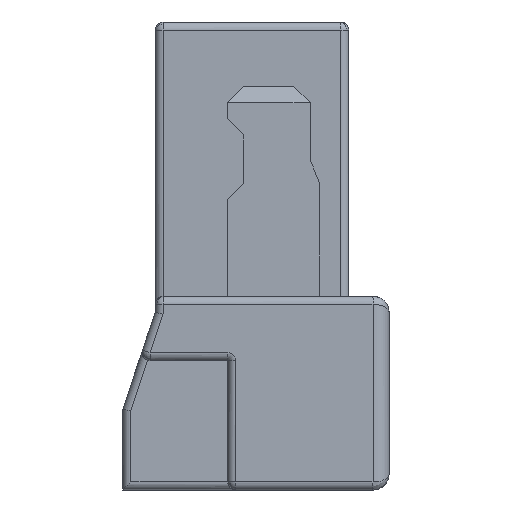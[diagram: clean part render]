
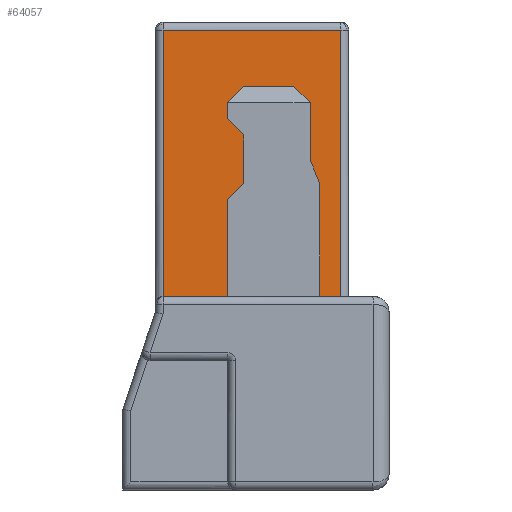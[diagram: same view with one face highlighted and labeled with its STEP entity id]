
A CAD part, left-side view. The second image highlights one B-rep face of the part: STEP entity #64057.
In plain terms, the highlighted planar face has unit normal (-1, 0, 0).
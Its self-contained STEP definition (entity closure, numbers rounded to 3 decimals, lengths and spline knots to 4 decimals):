
#10517=CARTESIAN_POINT('',(-16.09,1.4,1.2));
#10534=DIRECTION('',(0.,0.,1.));
#10535=VECTOR('',#10534,1.65);
#10536=CARTESIAN_POINT('',(-16.09,1.4,1.2));
#10537=LINE('',#10536,#10535);
#10571=DIRECTION('',(0.,-1.,0.));
#10572=VECTOR('',#10571,1.1);
#10573=CARTESIAN_POINT('',(-16.09,1.4,2.85));
#10574=LINE('',#10573,#10572);
#10579=DIRECTION('',(0.,0.,-1.));
#10580=VECTOR('',#10579,0.354);
#10581=CARTESIAN_POINT('',(-16.09,0.49,2.4));
#10582=LINE('',#10581,#10580);
#10583=DIRECTION('',(0.,-0.707,-0.707));
#10584=VECTOR('',#10583,0.1414);
#10585=CARTESIAN_POINT('',(-16.09,0.59,2.5));
#10586=LINE('',#10585,#10584);
#10587=DIRECTION('',(0.,-0.707,0.707));
#10588=VECTOR('',#10587,0.1414);
#10589=CARTESIAN_POINT('',(-16.09,1.,2.4));
#10590=LINE('',#10589,#10588);
#10591=DIRECTION('',(0.,0.707,0.707));
#10592=VECTOR('',#10591,0.1414);
#10593=CARTESIAN_POINT('',(-16.09,0.9,2.2));
#10594=LINE('',#10593,#10592);
#10595=DIRECTION('',(0.,-0.707,0.707));
#10596=VECTOR('',#10595,0.1414);
#10597=CARTESIAN_POINT('',(-16.09,1.,1.8));
#10598=LINE('',#10597,#10596);
#10599=DIRECTION('',(0.,-1.,0.));
#10600=VECTOR('',#10599,0.4);
#10601=CARTESIAN_POINT('',(-16.09,1.4,1.2));
#10602=LINE('',#10601,#10600);
#10603=DIRECTION('',(0.,-1.,0.));
#10604=VECTOR('',#10603,0.13);
#10605=CARTESIAN_POINT('',(-16.09,0.43,1.2));
#10606=LINE('',#10605,#10604);
#10607=DIRECTION('',(0.,-0.38,-0.925));
#10608=VECTOR('',#10607,0.1578);
#10609=CARTESIAN_POINT('',(-16.09,0.49,2.046));
#10610=LINE('',#10609,#10608);
#10627=DIRECTION('',(0.,0.,1.));
#10628=VECTOR('',#10627,0.7);
#10629=CARTESIAN_POINT('',(-16.09,0.43,1.2));
#10630=LINE('',#10629,#10628);
#10667=DIRECTION('',(0.,0.,-1.));
#10668=VECTOR('',#10667,0.6);
#10669=CARTESIAN_POINT('',(-16.09,1.,1.8));
#10670=LINE('',#10669,#10668);
#10683=DIRECTION('',(0.,0.,-1.));
#10684=VECTOR('',#10683,0.3);
#10685=CARTESIAN_POINT('',(-16.09,0.9,2.2));
#10686=LINE('',#10685,#10684);
#10699=DIRECTION('',(0.,0.,-1.));
#10700=VECTOR('',#10699,0.1);
#10701=CARTESIAN_POINT('',(-16.09,1.,2.4));
#10702=LINE('',#10701,#10700);
#10715=DIRECTION('',(0.,1.,0.));
#10716=VECTOR('',#10715,0.31);
#10717=CARTESIAN_POINT('',(-16.09,0.59,2.5));
#10718=LINE('',#10717,#10716);
#10731=DIRECTION('',(0.,0.,-1.));
#10732=VECTOR('',#10731,1.65);
#10733=CARTESIAN_POINT('',(-16.09,0.3,2.85));
#10734=LINE('',#10733,#10732);
#47578=VERTEX_POINT('',#10517);
#47591=CARTESIAN_POINT('',(-16.09,0.9,2.2));
#47593=VERTEX_POINT('',#47591);
#47595=CARTESIAN_POINT('',(-16.09,1.,2.3));
#47596=VERTEX_POINT('',#47595);
#47599=CARTESIAN_POINT('',(-16.09,0.59,2.5));
#47600=CARTESIAN_POINT('',(-16.09,0.49,2.4));
#47601=VERTEX_POINT('',#47599);
#47602=VERTEX_POINT('',#47600);
#47603=CARTESIAN_POINT('',(-16.09,0.9,2.5));
#47604=VERTEX_POINT('',#47603);
#47605=CARTESIAN_POINT('',(-16.09,1.,2.4));
#47606=VERTEX_POINT('',#47605);
#47607=CARTESIAN_POINT('',(-16.09,0.9,1.9));
#47608=VERTEX_POINT('',#47607);
#47609=CARTESIAN_POINT('',(-16.09,1.,1.8));
#47610=VERTEX_POINT('',#47609);
#47611=CARTESIAN_POINT('',(-16.09,1.,1.2));
#47612=VERTEX_POINT('',#47611);
#47613=CARTESIAN_POINT('',(-16.09,1.4,2.85));
#47614=VERTEX_POINT('',#47613);
#47615=CARTESIAN_POINT('',(-16.09,0.3,2.85));
#47616=VERTEX_POINT('',#47615);
#47617=CARTESIAN_POINT('',(-16.09,0.3,1.2));
#47618=VERTEX_POINT('',#47617);
#47619=CARTESIAN_POINT('',(-16.09,0.43,1.2));
#47620=VERTEX_POINT('',#47619);
#47621=CARTESIAN_POINT('',(-16.09,0.43,1.9));
#47622=VERTEX_POINT('',#47621);
#47623=CARTESIAN_POINT('',(-16.09,0.49,2.046));
#47624=VERTEX_POINT('',#47623);
#64022=CARTESIAN_POINT('',(-16.09,0.715,1.8));
#64023=DIRECTION('',(1.,0.,0.));
#64024=DIRECTION('',(0.,1.,0.));
#64025=AXIS2_PLACEMENT_3D('',#64022,#64023,#64024);
#64026=PLANE('',#64025);
#64028=ORIENTED_EDGE('',*,*,#64027,.F.);
#64030=ORIENTED_EDGE('',*,*,#64029,.F.);
#64032=ORIENTED_EDGE('',*,*,#64031,.T.);
#64034=ORIENTED_EDGE('',*,*,#64033,.F.);
#64036=ORIENTED_EDGE('',*,*,#64035,.T.);
#64038=ORIENTED_EDGE('',*,*,#64037,.F.);
#64040=ORIENTED_EDGE('',*,*,#64039,.T.);
#64042=ORIENTED_EDGE('',*,*,#64041,.F.);
#64044=ORIENTED_EDGE('',*,*,#64043,.T.);
#64045=ORIENTED_EDGE('',*,*,#54070,.F.);
#64046=ORIENTED_EDGE('',*,*,#63973,.T.);
#64047=ORIENTED_EDGE('',*,*,#64011,.T.);
#64049=ORIENTED_EDGE('',*,*,#64048,.T.);
#64050=ORIENTED_EDGE('',*,*,#54078,.F.);
#64052=ORIENTED_EDGE('',*,*,#64051,.T.);
#64054=ORIENTED_EDGE('',*,*,#64053,.F.);
#64055=EDGE_LOOP('',(#64028,#64030,#64032,#64034,#64036,#64038,#64040,#64042,
#64044,#64045,#64046,#64047,#64049,#64050,#64052,#64054));
#64056=FACE_OUTER_BOUND('',#64055,.F.);
#64057=ADVANCED_FACE('',(#64056),#64026,.F.);
#54070=EDGE_CURVE('',#47578,#47612,#10602,.T.);
#54078=EDGE_CURVE('',#47620,#47618,#10606,.T.);
#63973=EDGE_CURVE('',#47578,#47614,#10537,.T.);
#64011=EDGE_CURVE('',#47614,#47616,#10574,.T.);
#64027=EDGE_CURVE('',#47602,#47624,#10582,.T.);
#64029=EDGE_CURVE('',#47601,#47602,#10586,.T.);
#64031=EDGE_CURVE('',#47601,#47604,#10718,.T.);
#64033=EDGE_CURVE('',#47606,#47604,#10590,.T.);
#64035=EDGE_CURVE('',#47606,#47596,#10702,.T.);
#64037=EDGE_CURVE('',#47593,#47596,#10594,.T.);
#64039=EDGE_CURVE('',#47593,#47608,#10686,.T.);
#64041=EDGE_CURVE('',#47610,#47608,#10598,.T.);
#64043=EDGE_CURVE('',#47610,#47612,#10670,.T.);
#64048=EDGE_CURVE('',#47616,#47618,#10734,.T.);
#64051=EDGE_CURVE('',#47620,#47622,#10630,.T.);
#64053=EDGE_CURVE('',#47624,#47622,#10610,.T.);
